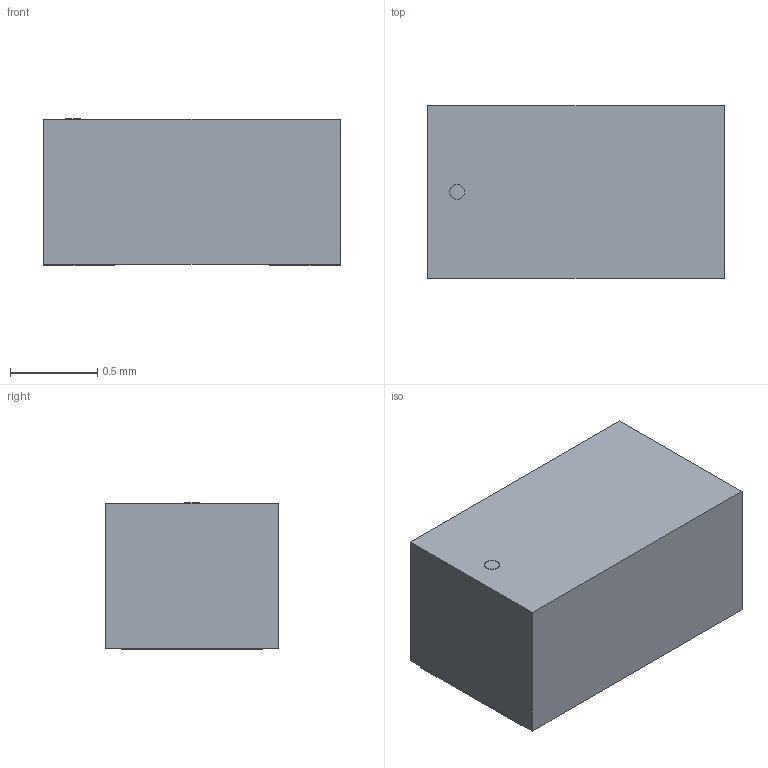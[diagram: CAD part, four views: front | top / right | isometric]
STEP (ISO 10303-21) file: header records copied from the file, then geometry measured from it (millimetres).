
FILE_DESCRIPTION(('STEP AP214'),'1');
FILE_NAME('DIODE_CD0603-B0240R_BRN','2021-09-22T01:03:08',(''),(''),'','','');
FILE_SCHEMA(('AUTOMOTIVE_DESIGN'));
Length unit declared in the file: millimetre
Products named in the file (1): product
Bounding box: 1.7 x 0.99 x 0.84 mm (x, y, z)
Volume: 1.4 mm3; surface area: 9.2 mm2
Topology: 4 solids, 4 shells, 21 faces, 39 edges, 26 vertices
Faces by surface type: plane 20, cylinder 1
Full cylindrical faces by diameter (mm): 0.085 x1
Entity records: 544 total; most frequent: DIRECTION 86, ORIENTED_EDGE 76, CARTESIAN_POINT 51, EDGE_CURVE 38, LINE 36, VECTOR 36, VERTEX_POINT 26, AXIS2_PLACEMENT_3D 25
